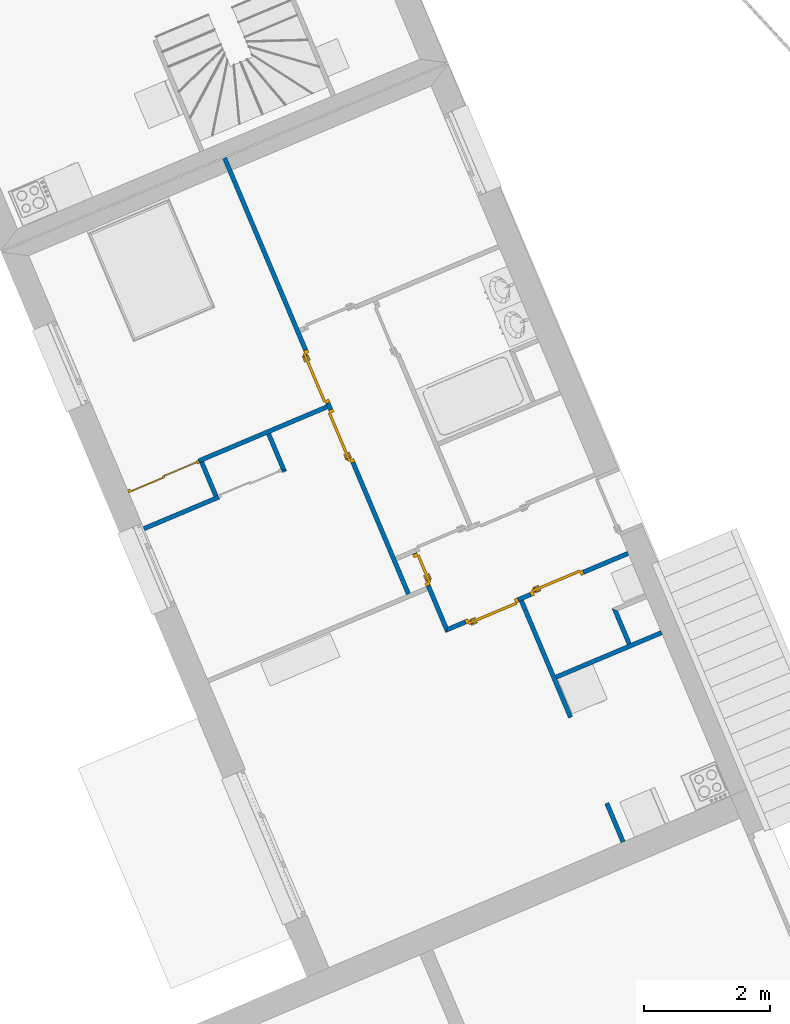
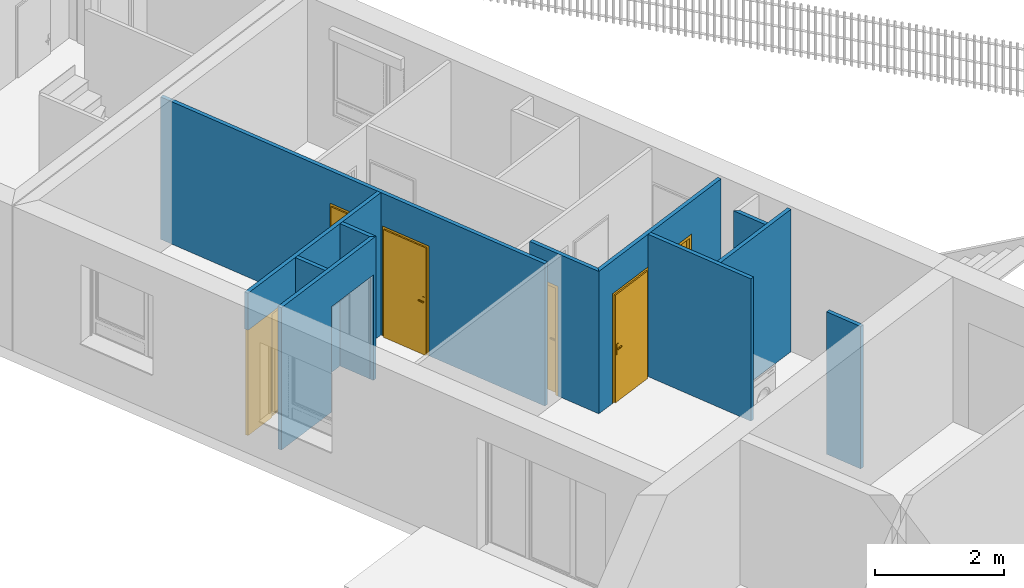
# One storey, part 52 of 195: 11 walls, 6 doors, 7 openings.
"""IFC2X3 building model written with IfcOpenShell, lengths in metres."""

from ifc_helpers import new_model, entity, si_unit, converted_unit, derived_unit, money_unit, direction, frame, origin_with_axes, origin_2d_with_axis, place, context, subcontext, project, spatial, polyline, rectangle, outline, extrude, open_shell, faceted_brep, surface_model, source, transform, mapped, material, layer, layer_set, layer_usage, type_object, element, fill, save


model = new_model("IFC2X3")

# Units and contexts
model_context = context("Model", 3, precision=1e-05, world=origin_with_axes(), true_north=direction((0.0, 1.0)))
body_context = subcontext(model_context, "Body", "Model", "MODEL_VIEW")
ifc_project = project(units=[si_unit("LENGTHUNIT", "METRE"), si_unit("AREAUNIT", "SQUARE_METRE"), si_unit("VOLUMEUNIT", "CUBIC_METRE"), converted_unit("PLANEANGLEUNIT", "DEGREE", entity("IfcPlaneAngleMeasure", 0.0174532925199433), si_unit("PLANEANGLEUNIT", "RADIAN"), dimensions=[0, 0, 0, 0, 0, 0, 0]), money_unit("CHF"), converted_unit("TIMEUNIT", "Year", entity("IfcTimeMeasure", 31557600.0), si_unit("TIMEUNIT", "SECOND"), dimensions=[0, 0, 1, 0, 0, 0, 0]), si_unit("MASSUNIT", "GRAM", prefix="KILO"), si_unit("THERMODYNAMICTEMPERATUREUNIT", "DEGREE_CELSIUS"), si_unit("LUMINOUSINTENSITYUNIT", "LUMEN"), si_unit("ENERGYUNIT", "JOULE", prefix="MEGA"), derived_unit("THERMALCONDUCTANCEUNIT", [(si_unit("POWERUNIT", "WATT"), 1), (si_unit("LENGTHUNIT", "METRE"), -1), (si_unit("THERMODYNAMICTEMPERATUREUNIT", "KELVIN"), -1)]), derived_unit("SPECIFICHEATCAPACITYUNIT", [(si_unit("ENERGYUNIT", "JOULE"), 1), (si_unit("MASSUNIT", "GRAM", prefix="KILO"), -1), (si_unit("THERMODYNAMICTEMPERATUREUNIT", "KELVIN"), -1)]), derived_unit("MASSDENSITYUNIT", [(si_unit("MASSUNIT", "GRAM", prefix="KILO"), 1), (si_unit("VOLUMEUNIT", "CUBIC_METRE"), -1)])], contexts=[model_context])

# Site, building, storey
site_placement = place(None, origin_with_axes())
site = spatial("IfcSite", under=ifc_project, at=site_placement, Name="Site", CompositionType="ELEMENT")
building_placement = place(site_placement, origin_with_axes())
building = spatial("IfcBuilding", under=site, at=building_placement, Name="Bâtiment", CompositionType="ELEMENT")
storey_placement = place(building_placement, origin_with_axes())
storey = spatial("IfcBuildingStorey", under=building, at=storey_placement, Name="rdc", CompositionType="ELEMENT", Elevation=0.0)

# Wall
ifc_material = material(Name="Hachure solide 268963992")
ifc_layer = layer(ifc_material, 0.07, ventilated="UNKNOWN")
ifc_layer_set = layer_set([ifc_layer], Name="Cloison 70 0826278243")
ifc_layer_usage_1 = layer_usage(ifc_layer_set, "AXIS2", "NEGATIVE", 0.0)
wall_type = type_object("IfcWallType", Name="Cloison 70 0826278243 70", PredefinedType="NOTDEFINED")
wall_1_placement = place(storey_placement, frame((9566.680143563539, -1049.272818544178, 57.7), z_axis=(0.0, 0.0, 1.0), x_axis=(-0.3885669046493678, 0.9214205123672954, 0.0)))
element("IfcWallStandardCase", 1, at=wall_1_placement, inside=storey, type_object=wall_type, material=ifc_layer_usage_1, Name="Mur-149", context=body_context, shape_type="SweptSolid", body=[
    extrude(outline(polyline([(0.0700000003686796, -0.07000000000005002), (0.6499928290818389, -0.06999999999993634), (0.6499928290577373, 0.0), (0.07000000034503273, 0.0), (0.0700000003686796, -0.07000000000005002)])), origin_with_axes(), (0.0, 0.0, 1.0), 2.7),
])

# Wall, opening, door
ifc_layer_usage_2 = layer_usage(ifc_layer_set, "AXIS2", "NEGATIVE", 0.0)
wall_2_placement = place(storey_placement, frame((9568.523512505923, -1047.790037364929, 57.7), z_axis=(0.0, 0.0, 1.0), x_axis=(-0.92142051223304, -0.3885669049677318, 0.0)))
wall_2 = element("IfcWallStandardCase", 2, at=wall_2_placement, inside=storey, type_object=wall_type, material=ifc_layer_usage_2, Name="Mur-149", context=body_context, shape_type="SweptSolid", body=[
    extrude(outline(polyline([(0.07000000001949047, -0.06999999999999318), (3.491145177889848, -0.06999999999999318), (3.491145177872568, 0.0), (0.06999999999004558, 0.0), (0.07000000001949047, -0.06999999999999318)])), origin_with_axes(), (0.0, 0.0, 1.0), 2.7),
])
opening_1_placement = place(wall_2_placement, frame((2.882911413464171, 0.0, 0.0), z_axis=(0.0, 0.0, 1.0), x_axis=(1.0, 0.0, 0.0)))
opening_1 = element("IfcOpeningElement", 3, at=opening_1_placement, cuts=wall_2, Name="Por-349", context=body_context, shape_type="SweptSolid", body=[
    extrude(rectangle(XDim=1.216467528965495, YDim=2.0, at=origin_2d_with_axis()), frame((0.0, 0.0, 1.0), z_axis=(0.0, -1.0, 0.0), x_axis=(1.0, 0.0, 0.0)), (0.0, 0.0, -1.0), 0.07),
    extrude(rectangle(XDim=1.216467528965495, YDim=2.0, at=origin_2d_with_axis()), frame((0.0, 0.0, 1.0), z_axis=(0.0, 1.0, 0.0), x_axis=(1.0, 0.0, 0.0)), (0.0, 0.0, -1.0), 0.07),
])
door_style_1 = type_object("IfcDoorStyle", ConstructionType="NOTDEFINED", OperationType="NOTDEFINED", ParameterTakesPrecedence=False, Sizeable=False)
shared_shape_1 = source(origin_with_axes(), body_context, "Body", "SurfaceModel", [
    faceted_brep([(0.6082337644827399, 0.0, 0.0), (0.5682337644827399, 0.0, 0.0), (0.5682337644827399, 0.0, 1.96), (-0.5682337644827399, 0.0, 1.96), (-0.5682337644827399, 0.0, 0.0), (-0.6082337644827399, 0.0, 0.0), (-0.6082337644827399, 0.0, 2.0), (0.6082337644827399, 0.0, 2.0), (0.6082337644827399, -0.05, 0.0), (0.5682337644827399, -0.05, 0.0), (0.5682337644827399, -0.04, 0.0), (0.5682337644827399, -0.04, 1.96), (-0.5682337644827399, -0.04, 1.96), (-0.5682337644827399, -0.04, 0.0), (-0.5682337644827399, -0.05, 0.0), (-0.6082337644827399, -0.05, 0.0), (-0.6082337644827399, -0.05, 2.0), (0.6082337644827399, -0.05, 2.0), (-0.5682337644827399, -0.05, 1.96), (0.5682337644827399, -0.05, 1.96)], [[[0, 1, 2, 3, 4, 5, 6, 7]], [[0, 8, 9, 10, 1]], [[1, 10, 11, 2]], [[2, 11, 12, 3]], [[3, 12, 13, 4]], [[5, 4, 13, 14, 15]], [[16, 6, 5, 15]], [[17, 7, 6, 16]], [[8, 0, 7, 17]], [[9, 8, 17, 16, 15, 14, 18, 19]], [[10, 9, 19, 11]], [[11, 19, 18, 12]], [[12, 18, 14, 13]]]),
    faceted_brep([(-0.5682337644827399, -0.02, 0.0), (0.01500000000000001, -0.02, 0.0), (0.01500000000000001, -0.04, 0.0), (-0.5682337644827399, -0.04, 0.0), (-0.5682337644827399, -0.02, 1.96), (0.01500000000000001, -0.02, 1.96), (-0.5382337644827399, -0.02, 0.03), (-0.01500000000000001, -0.02, 0.03), (-0.01500000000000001, -0.02, 1.93), (-0.5382337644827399, -0.02, 1.93), (0.01500000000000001, -0.04, 1.96), (-0.5682337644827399, -0.04, 1.96), (-0.5382337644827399, -0.04, 0.03), (-0.5382337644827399, -0.04, 1.93), (-0.01500000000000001, -0.04, 1.93), (-0.01500000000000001, -0.04, 0.03)], [[[0, 1, 2, 3]], [[0, 4, 5, 1], [6, 7, 8, 9]], [[1, 5, 10, 2]], [[3, 2, 10, 11], [12, 13, 14, 15]], [[4, 0, 3, 11]], [[5, 4, 11, 10]], [[7, 6, 12, 15]], [[8, 7, 15, 14]], [[9, 8, 14, 13]], [[6, 9, 13, 12]]]),
    surface_model("IfcShellBasedSurfaceModel", [(-0.5382337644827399, -0.03, 0.03), (-0.01500000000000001, -0.03, 0.03), (-0.01500000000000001, -0.03, 1.93), (-0.5382337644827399, -0.03, 1.93)], [open_shell([[[0, 1, 2, 3]]])]),
    faceted_brep([(-0.01500000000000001, 0.0, 0.0), (0.5682337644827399, 0.0, 0.0), (0.5682337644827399, -0.02, 0.0), (-0.01500000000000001, -0.02, 0.0), (-0.01500000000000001, 0.0, 1.96), (0.5682337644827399, 0.0, 1.96), (0.5682337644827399, -0.02, 1.96), (-0.01500000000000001, -0.02, 1.96)], [[[0, 1, 2, 3]], [[0, 4, 5, 1]], [[1, 5, 6, 2]], [[3, 2, 6, 7]], [[4, 0, 3, 7]], [[5, 4, 7, 6]]]),
])
door_1_placement = place(opening_1_placement, frame((-0.6082337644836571, 0.0, 0.0), z_axis=(0.0, 0.0, 1.0), x_axis=(1.0, 0.0, 0.0)))
door_1 = element("IfcDoor", 4, at=door_1_placement, inside=storey, type_object=door_style_1, Name="Por-349", OverallHeight=2.0, OverallWidth=1.21647, context=body_context, shape_type="MappedRepresentation", body=[
    mapped(shared_shape_1, transform((0.6082337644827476, 0.0, 0.0))),
])
fill(opening_1, door_1)

# Wall, openings, doors
ifc_layer_usage_3 = layer_usage(ifc_layer_set, "AXIS2", "NEGATIVE", 0.0)
wall_3_placement = place(storey_placement, frame((9566.854954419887, -1043.833334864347, 57.7), z_axis=(0.0, 0.0, 1.0), x_axis=(0.3885669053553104, -0.9214205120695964, 0.0)))
wall_3 = element("IfcWallStandardCase", 5, at=wall_3_placement, inside=storey, type_object=wall_type, material=ifc_layer_usage_3, Name="Mur-149", context=body_context, shape_type="SweptSolid", body=[
    extrude(outline(polyline([(0.0, -0.06999999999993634), (7.488450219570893, -0.06999999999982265), (7.488450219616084, 0.0), (0.0, 0.0), (0.0, -0.06999999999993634)])), origin_with_axes(), (0.0, 0.0, 1.0), 2.7),
])
opening_2_placement = place(wall_3_placement, frame((3.753835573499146, 0.0, 0.0), z_axis=(0.0, 0.0, 1.0), x_axis=(1.0, 0.0, 0.0)))
opening_2 = element("IfcOpeningElement", 6, at=opening_2_placement, cuts=wall_3, Name="Por-301", context=body_context, shape_type="SweptSolid", body=[
    extrude(rectangle(XDim=0.9099999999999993, YDim=2.079999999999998, at=origin_2d_with_axis()), frame((0.0, 0.06999999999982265, 1.039999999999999), z_axis=(0.0, 1.0, 0.0), x_axis=(1.0, 0.0, 0.0)), (0.0, 0.0, -1.0), 0.14),
])
opening_3_placement = place(wall_3_placement, frame((4.775037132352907, 0.0, 0.0), z_axis=(0.0, 0.0, 1.0), x_axis=(1.0, 0.0, 0.0)))
opening_3 = element("IfcOpeningElement", 7, at=opening_3_placement, cuts=wall_3, Name="Por-302", context=body_context, shape_type="SweptSolid", body=[
    extrude(rectangle(XDim=0.9099999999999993, YDim=2.079999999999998, at=origin_2d_with_axis()), frame((0.0, 0.06999999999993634, 1.039999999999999), z_axis=(0.0, -1.0, 0.0), x_axis=(-1.0, 0.0, 0.0)), (0.0, 0.0, 1.0), 0.14),
])
door_style_2 = type_object("IfcDoorStyle", Name="Porte_1v", ConstructionType="NOTDEFINED", OperationType="NOTDEFINED", ParameterTakesPrecedence=False, Sizeable=False)
shared_shape_2 = source(origin_with_axes(), body_context, "Body", "Brep", [
    faceted_brep([(0.455, 0.0, 0.0), (0.415, 0.0, 0.0), (0.415, 0.0, 2.04), (-0.415, 0.0, 2.04), (-0.415, 0.0, 0.0), (-0.455, 0.0, 0.0), (-0.455, 0.0, 2.08), (0.455, 0.0, 2.08), (0.455, -0.07, 0.0), (0.4, -0.07, 0.0), (0.4, -0.015, 0.0), (0.415, -0.015, 0.0), (0.415, -0.015, 2.04), (-0.415, -0.015, 2.04), (-0.415, -0.015, 0.0), (-0.4, -0.015, 0.0), (-0.4, -0.07, 0.0), (-0.455, -0.07, 0.0), (-0.455, -0.07, 2.08), (0.455, -0.07, 2.08), (-0.4, -0.07, 2.025), (0.4, -0.07, 2.025), (0.4, -0.015, 2.025), (-0.4, -0.015, 2.025)], [[[0, 1, 2, 3, 4, 5, 6, 7]], [[0, 8, 9, 10, 11, 1]], [[1, 11, 12, 2]], [[2, 12, 13, 3]], [[3, 13, 14, 4]], [[5, 4, 14, 15, 16, 17]], [[18, 6, 5, 17]], [[19, 7, 6, 18]], [[8, 0, 7, 19]], [[9, 8, 19, 18, 17, 16, 20, 21]], [[10, 9, 21, 22]], [[11, 10, 22, 23, 15, 14, 13, 12]], [[23, 20, 16, 15]], [[22, 21, 20, 23]]]),
    faceted_brep([(-0.35, -0.015, 0.9), (-0.39, -0.015, 0.9), (-0.39, -0.015, 1.1), (-0.35, -0.015, 1.1), (-0.35, -0.025, 0.9), (-0.39, -0.025, 0.9), (-0.39, -0.025, 1.1), (-0.35, -0.025, 1.1)], [[[0, 1, 2, 3]], [[1, 0, 4, 5]], [[2, 1, 5, 6]], [[3, 2, 6, 7]], [[0, 3, 7, 4]], [[5, 4, 7, 6]]]),
    faceted_brep([(-0.28, -0.025, 1.0), (-0.38, -0.025, 1.0), (-0.38, -0.025, 1.02), (-0.28, -0.025, 1.02), (-0.28, -0.045, 1.0), (-0.38, -0.045, 1.0), (-0.38, -0.045, 1.02), (-0.28, -0.045, 1.02)], [[[0, 1, 2, 3]], [[1, 0, 4, 5]], [[2, 1, 5, 6]], [[3, 2, 6, 7]], [[0, 3, 7, 4]], [[5, 4, 7, 6]]]),
    faceted_brep([(-0.35, 0.035, 0.9), (-0.39, 0.035, 0.9), (-0.39, 0.035, 1.1), (-0.35, 0.035, 1.1), (-0.35, 0.025, 0.9), (-0.39, 0.025, 0.9), (-0.39, 0.025, 1.1), (-0.35, 0.025, 1.1)], [[[0, 1, 2, 3]], [[1, 0, 4, 5]], [[2, 1, 5, 6]], [[3, 2, 6, 7]], [[0, 3, 7, 4]], [[5, 4, 7, 6]]]),
    faceted_brep([(-0.28, 0.05500000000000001, 1.0), (-0.38, 0.05500000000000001, 1.0), (-0.38, 0.05500000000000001, 1.02), (-0.28, 0.05500000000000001, 1.02), (-0.28, 0.035, 1.0), (-0.38, 0.035, 1.0), (-0.38, 0.035, 1.02), (-0.28, 0.035, 1.02)], [[[0, 1, 2, 3]], [[1, 0, 4, 5]], [[2, 1, 5, 6]], [[3, 2, 6, 7]], [[0, 3, 7, 4]], [[5, 4, 7, 6]]]),
    faceted_brep([(-0.415, 0.025, 0.0), (0.415, 0.025, 0.0), (0.415, -0.015, 0.0), (-0.415, -0.015, 0.0), (-0.415, 0.025, 2.04), (0.415, 0.025, 2.04), (0.415, -0.015, 2.04), (-0.415, -0.015, 2.04)], [[[0, 1, 2, 3]], [[0, 4, 5, 1]], [[1, 5, 6, 2]], [[3, 2, 6, 7]], [[4, 0, 3, 7]], [[5, 4, 7, 6]]]),
])
door_2_placement = place(opening_3_placement, frame((0.4150000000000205, 0.0, 0.0), z_axis=(0.0, 0.0, 1.0), x_axis=(-1.0, 0.0, 0.0)))
door_2 = element("IfcDoor", 8, at=door_2_placement, inside=storey, type_object=door_style_2, Name="Por-302", OverallHeight=2.04, OverallWidth=0.83, context=body_context, shape_type="MappedRepresentation", body=[
    mapped(shared_shape_2, transform((0.4149999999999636, 0.07000000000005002, 0.0))),
])
fill(opening_3, door_2)
shared_shape_3 = source(origin_with_axes(), body_context, "Body", "Brep", [
    faceted_brep([(-0.455, 0.0, 0.0), (-0.455, 0.0, 2.08), (0.455, 0.0, 2.08), (0.455, 0.0, 0.0), (0.415, 0.0, 0.0), (0.415, 0.0, 2.04), (-0.415, 0.0, 2.04), (-0.415, 0.0, 0.0), (-0.455, -0.07, 0.0), (-0.455, -0.07, 2.08), (0.455, -0.07, 2.08), (0.455, -0.07, 0.0), (0.4, -0.07, 0.0), (0.4, -0.015, 0.0), (0.415, -0.015, 0.0), (0.415, -0.015, 2.04), (-0.415, -0.015, 2.04), (-0.415, -0.015, 0.0), (-0.4, -0.015, 0.0), (-0.4, -0.07, 0.0), (-0.4, -0.07, 2.025), (0.4, -0.07, 2.025), (0.4, -0.015, 2.025), (-0.4, -0.015, 2.025)], [[[0, 1, 2, 3, 4, 5, 6, 7]], [[8, 9, 1, 0]], [[9, 10, 2, 1]], [[10, 11, 3, 2]], [[3, 11, 12, 13, 14, 4]], [[5, 4, 14, 15]], [[6, 5, 15, 16]], [[7, 6, 16, 17]], [[0, 7, 17, 18, 19, 8]], [[19, 20, 21, 12, 11, 10, 9, 8]], [[22, 13, 12, 21]], [[17, 16, 15, 14, 13, 22, 23, 18]], [[18, 23, 20, 19]], [[23, 22, 21, 20]]]),
    faceted_brep([(0.35, -0.015, 0.9), (0.35, -0.015, 1.1), (0.39, -0.015, 1.1), (0.39, -0.015, 0.9), (0.35, -0.025, 0.9), (0.35, -0.025, 1.1), (0.39, -0.025, 1.1), (0.39, -0.025, 0.9)], [[[0, 1, 2, 3]], [[0, 4, 5, 1]], [[1, 5, 6, 2]], [[2, 6, 7, 3]], [[3, 7, 4, 0]], [[7, 6, 5, 4]]]),
    faceted_brep([(0.28, -0.025, 1.0), (0.28, -0.025, 1.02), (0.38, -0.025, 1.02), (0.38, -0.025, 1.0), (0.28, -0.045, 1.0), (0.28, -0.045, 1.02), (0.38, -0.045, 1.02), (0.38, -0.045, 1.0)], [[[0, 1, 2, 3]], [[0, 4, 5, 1]], [[1, 5, 6, 2]], [[2, 6, 7, 3]], [[3, 7, 4, 0]], [[7, 6, 5, 4]]]),
    faceted_brep([(0.35, 0.035, 0.9), (0.35, 0.035, 1.1), (0.39, 0.035, 1.1), (0.39, 0.035, 0.9), (0.35, 0.025, 0.9), (0.35, 0.025, 1.1), (0.39, 0.025, 1.1), (0.39, 0.025, 0.9)], [[[0, 1, 2, 3]], [[0, 4, 5, 1]], [[1, 5, 6, 2]], [[2, 6, 7, 3]], [[3, 7, 4, 0]], [[7, 6, 5, 4]]]),
    faceted_brep([(0.28, 0.05500000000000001, 1.0), (0.28, 0.05500000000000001, 1.02), (0.38, 0.05500000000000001, 1.02), (0.38, 0.05500000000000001, 1.0), (0.28, 0.035, 1.0), (0.28, 0.035, 1.02), (0.38, 0.035, 1.02), (0.38, 0.035, 1.0)], [[[0, 1, 2, 3]], [[0, 4, 5, 1]], [[1, 5, 6, 2]], [[2, 6, 7, 3]], [[3, 7, 4, 0]], [[7, 6, 5, 4]]]),
    faceted_brep([(0.415, 0.025, 0.0), (0.415, -0.015, 0.0), (-0.415, -0.015, 0.0), (-0.415, 0.025, 0.0), (0.415, 0.025, 2.04), (0.415, -0.015, 2.04), (-0.415, -0.015, 2.04), (-0.415, 0.025, 2.04)], [[[0, 1, 2, 3]], [[4, 5, 1, 0]], [[1, 5, 6, 2]], [[3, 2, 6, 7]], [[0, 3, 7, 4]], [[7, 6, 5, 4]]]),
])
door_3_placement = place(opening_2_placement, frame((0.4149999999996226, 0.0, 0.0), z_axis=(0.0, 0.0, 1.0), x_axis=(-1.0, 0.0, 0.0)))
door_3 = element("IfcDoor", 9, at=door_3_placement, inside=storey, type_object=door_style_2, Name="Por-301", OverallHeight=2.04, OverallWidth=0.83, context=body_context, shape_type="MappedRepresentation", body=[
    mapped(shared_shape_3, transform((0.4149999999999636, 0.07000000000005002, 0.0))),
])
fill(opening_2, door_3)

# Wall
ifc_layer_usage_4 = layer_usage(ifc_layer_set, "AXIS2", "NEGATIVE", 0.0)
wall_4_placement = place(storey_placement, frame((9567.740119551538, -1048.825822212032, 57.7), z_axis=(0.0, 0.0, 1.0), x_axis=(-0.3885669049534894, 0.9214205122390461, 0.0)))
element("IfcWallStandardCase", 10, at=wall_4_placement, inside=storey, type_object=wall_type, material=ifc_layer_usage_4, Name="Mur-149", context=body_context, shape_type="SweptSolid", body=[
    extrude(outline(polyline([(0.0, -0.07000000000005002), (0.6499928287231, -0.07000000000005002), (0.64999282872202, 0.0), (0.07000000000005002, 0.0), (0.0, -0.07000000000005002)])), origin_with_axes(), (0.0, 0.0, 1.0), 2.7),
])

# Wall, opening
ifc_layer_usage_5 = layer_usage(ifc_layer_set, "AXIS2", "NEGATIVE", 0.0)
wall_5_placement = place(storey_placement, frame((9567.740119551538, -1048.825822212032, 57.7), z_axis=(0.0, 0.0, 1.0), x_axis=(-0.921420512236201, -0.3885669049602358, 0.0)))
wall_5 = element("IfcWallStandardCase", 11, at=wall_5_placement, inside=storey, type_object=wall_type, material=ifc_layer_usage_5, Name="Mur-149", context=body_context, shape_type="SweptSolid", body=[
    extrude(outline(polyline([(0.0, -0.06999999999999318), (2.366839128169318, -0.06999999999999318), (2.366839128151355, 0.0), (-0.07000000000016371, 0.0), (0.0, -0.06999999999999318)])), origin_with_axes(), (0.0, 0.0, 1.0), 2.7),
])
opening_4_placement = place(wall_5_placement, frame((0.5401857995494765, 0.0, 0.0), z_axis=(0.0, 0.0, 1.0), x_axis=(1.0, 0.0, 0.0)))
element("IfcOpeningElement", 12, at=opening_4_placement, cuts=wall_5, Name="Por-348", context=body_context, shape_type="SweptSolid", body=[
    extrude(rectangle(XDim=1.080371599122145, YDim=2.0, at=origin_2d_with_axis()), frame((0.0, -0.06999999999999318, 1.0), z_axis=(0.0, 1.0, 0.0), x_axis=(1.0, 0.0, 0.0)), (0.0, 0.0, -1.0), 0.07),
    extrude(rectangle(XDim=1.080371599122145, YDim=2.0, at=origin_2d_with_axis()), frame((0.0, -0.06999999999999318, 1.0), z_axis=(0.0, -1.0, 0.0), x_axis=(1.0, 0.0, 0.0)), (0.0, 0.0, -1.0), 0.07),
])

# Walls
ifc_layer_usage_6 = layer_usage(ifc_layer_set, "AXIS2", "NEGATIVE", 0.0)
wall_6_placement = place(storey_placement, frame((9572.903494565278, -1054.044040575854, 57.7), z_axis=(0.0, 0.0, 1.0), x_axis=(0.3885669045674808, -0.9214205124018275, 0.0)))
element("IfcWallStandardCase", 13, at=wall_6_placement, inside=storey, type_object=wall_type, material=ifc_layer_usage_6, Name="Mur-149", context=body_context, shape_type="SweptSolid", body=[
    extrude(outline(polyline([(0.0, -0.07000000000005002), (0.6668305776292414, -0.07000000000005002), (0.6665136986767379, 0.0), (0.0, 0.0), (0.0, -0.07000000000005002)])), origin_with_axes(), (0.0, 0.0, 1.0), 2.7),
])
ifc_layer_usage_7 = layer_usage(ifc_layer_set, "AXIS2", "NEGATIVE", 0.0)
wall_7_placement = place(storey_placement, frame((9573.194669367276, -1051.550557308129, 57.7), z_axis=(0.0, 0.0, 1.0), x_axis=(-0.3885669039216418, 0.9214205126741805, 0.0)))
element("IfcWallStandardCase", 14, at=wall_7_placement, inside=storey, type_object=wall_type, material=ifc_layer_usage_7, Name="Mur-149", context=body_context, shape_type="SweptSolid", body=[
    extrude(outline(polyline([(0.0, -0.07000000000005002), (0.5522261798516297, -0.07000000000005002), (0.6222241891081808, 0.0), (0.0, 0.0), (0.0, -0.07000000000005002)])), origin_with_axes(), (0.0, 0.0, 1.0), 2.7),
])
ifc_layer_usage_8 = layer_usage(ifc_layer_set, "AXIS2", "NEGATIVE", 0.0)
wall_8_placement = place(storey_placement, frame((9571.55261250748, -1050.840652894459, 57.7), z_axis=(0.0, 0.0, 1.0), x_axis=(0.3885669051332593, -0.9214205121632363, 0.0)))
element("IfcWallStandardCase", 15, at=wall_8_placement, inside=storey, type_object=wall_type, material=ifc_layer_usage_8, Name="Mur-149", context=body_context, shape_type="SweptSolid", body=[
    extrude(outline(polyline([(-7.009361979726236e-10, -0.07000000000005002), (2.00396996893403, -0.07000000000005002), (2.00396996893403, 0.0), (-6.78028300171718e-10, 0.0), (-7.009361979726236e-10, -0.07000000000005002)])), origin_with_axes(), (0.0, 0.0, 1.0), 2.7),
])

# Wall, openings, doors
ifc_layer_usage_9 = layer_usage(ifc_layer_set, "AXIS2", "POSITIVE", 0.0)
wall_9_placement = place(storey_placement, frame((9570.321865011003, -1051.35966428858, 57.7), z_axis=(0.0, 0.0, 1.0), x_axis=(0.9214205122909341, 0.3885669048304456, 0.0)))
wall_9 = element("IfcWallStandardCase", 16, at=wall_9_placement, inside=storey, type_object=wall_type, material=ifc_layer_usage_9, Name="Mur-149", context=body_context, shape_type="SweptSolid", body=[
    extrude(outline(polyline([(2.144133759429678e-10, 0.0), (3.148769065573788, 0.0), (3.148769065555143, 0.07000000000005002), (0.070000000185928, 0.06999999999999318), (2.144133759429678e-10, 0.0)])), origin_with_axes(), (0.0, 0.0, 1.0), 2.7),
])
opening_5_placement = place(wall_9_placement, frame((0.8050034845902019, 0.0, 0.0), z_axis=(0.0, 0.0, 1.0), x_axis=(1.0, 0.0, 0.0)))
opening_5 = element("IfcOpeningElement", 17, at=opening_5_placement, cuts=wall_9, Name="Por-299", context=body_context, shape_type="SweptSolid", body=[
    extrude(rectangle(XDim=0.9099999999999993, YDim=2.079999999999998, at=origin_2d_with_axis()), frame((0.0, 0.06999999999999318, 1.039999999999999), z_axis=(0.0, 1.0, 0.0), x_axis=(1.0, 0.0, 0.0)), (0.0, 0.0, -1.0), 0.14),
])
opening_6_placement = place(wall_9_placement, frame((1.926126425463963, 0.0, 0.0), z_axis=(0.0, 0.0, 1.0), x_axis=(1.0, 0.0, 0.0)))
opening_6 = element("IfcOpeningElement", 18, at=opening_6_placement, cuts=wall_9, Name="Por-299", context=body_context, shape_type="SweptSolid", body=[
    extrude(rectangle(XDim=0.9099999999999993, YDim=2.079999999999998, at=origin_2d_with_axis()), frame((0.0, -0.06999999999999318, 1.039999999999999), z_axis=(0.0, 1.0, 0.0), x_axis=(1.0, 0.0, 0.0)), (0.0, 0.0, 1.0), 0.14),
])
door_4_placement = place(opening_6_placement, frame((-0.415000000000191, 0.0, 0.0), z_axis=(0.0, 0.0, 1.0), x_axis=(1.0, 0.0, 0.0)))
door_4 = element("IfcDoor", 19, at=door_4_placement, inside=storey, type_object=door_style_2, Name="Por-299", OverallHeight=2.04, OverallWidth=0.83, context=body_context, shape_type="MappedRepresentation", body=[
    mapped(shared_shape_2, transform((0.4150000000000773, 0.07000000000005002, 0.0))),
])
fill(opening_6, door_4)
door_5_placement = place(opening_5_placement, frame((0.4150000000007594, 0.0, 0.0), z_axis=(0.0, 0.0, 1.0), x_axis=(-1.0, 0.0, 0.0)))
door_5 = element("IfcDoor", 20, at=door_5_placement, inside=storey, type_object=door_style_2, Name="Por-299", OverallHeight=2.04, OverallWidth=0.83, context=body_context, shape_type="MappedRepresentation", body=[
    mapped(shared_shape_3, transform((0.4149999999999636, 0.0, 0.0))),
])
fill(opening_5, door_5)

# Wall, opening, door
ifc_layer_usage_10 = layer_usage(ifc_layer_set, "AXIS2", "NEGATIVE", 0.0)
wall_10_placement = place(storey_placement, frame((9570.321865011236, -1051.35966428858, 57.7), z_axis=(0.0, 0.0, 1.0), x_axis=(-0.3885669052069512, 0.9214205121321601, 0.0)))
wall_10 = element("IfcWallStandardCase", 21, at=wall_10_placement, inside=storey, type_object=wall_type, material=ifc_layer_usage_10, Name="Mur-149", context=body_context, shape_type="SweptSolid", body=[
    extrude(outline(polyline([(0.07000000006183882, -0.06999999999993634), (1.34850118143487, -0.06999999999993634), (1.348501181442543, 0.0), (0.0, 0.0), (0.07000000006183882, -0.06999999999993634)])), origin_with_axes(), (0.0, 0.0, 1.0), 2.7),
])
opening_7_placement = place(wall_10_placement, frame((1.067283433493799, 0.0, 0.0), z_axis=(0.0, 0.0, 1.0), x_axis=(1.0, 0.0, 0.0)))
opening_7 = element("IfcOpeningElement", 22, at=opening_7_placement, cuts=wall_10, Name="Por-320", context=body_context, shape_type="SweptSolid", body=[
    extrude(rectangle(XDim=0.547405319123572, YDim=2.079999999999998, at=origin_2d_with_axis()), frame((-2.722629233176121e-09, 0.06999999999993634, 1.039999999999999), z_axis=(0.0, 1.0, 0.0), x_axis=(1.0, 0.0, 0.0)), (0.0, 0.0, -1.0), 0.14),
])
shared_shape_4 = source(origin_with_axes(), body_context, "Body", "Brep", [
    faceted_brep([(-0.2737026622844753, 0.0, 0.0), (-0.2737026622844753, 0.0, 2.08), (0.2737026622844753, 0.0, 2.08), (0.2737026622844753, 0.0, 0.0), (0.2337026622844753, 0.0, 0.0), (0.2337026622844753, 0.0, 2.04), (-0.2337026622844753, 0.0, 2.04), (-0.2337026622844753, 0.0, 0.0), (-0.2737026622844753, -0.07, 0.0), (-0.2737026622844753, -0.07, 2.08), (0.2737026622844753, -0.07, 2.08), (0.2737026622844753, -0.07, 0.0), (0.2187026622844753, -0.07, 0.0), (0.2187026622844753, -0.015, 0.0), (0.2337026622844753, -0.015, 0.0), (0.2337026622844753, -0.015, 2.04), (-0.2337026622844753, -0.015, 2.04), (-0.2337026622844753, -0.015, 0.0), (-0.2187026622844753, -0.015, 0.0), (-0.2187026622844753, -0.07, 0.0), (-0.2187026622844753, -0.07, 2.025), (0.2187026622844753, -0.07, 2.025), (0.2187026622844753, -0.015, 2.025), (-0.2187026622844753, -0.015, 2.025)], [[[0, 1, 2, 3, 4, 5, 6, 7]], [[8, 9, 1, 0]], [[9, 10, 2, 1]], [[10, 11, 3, 2]], [[3, 11, 12, 13, 14, 4]], [[5, 4, 14, 15]], [[6, 5, 15, 16]], [[7, 6, 16, 17]], [[0, 7, 17, 18, 19, 8]], [[19, 20, 21, 12, 11, 10, 9, 8]], [[22, 13, 12, 21]], [[17, 16, 15, 14, 13, 22, 23, 18]], [[18, 23, 20, 19]], [[23, 22, 21, 20]]]),
    faceted_brep([(0.1687026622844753, -0.015, 0.9), (0.1687026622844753, -0.015, 1.1), (0.2087026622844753, -0.015, 1.1), (0.2087026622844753, -0.015, 0.9), (0.1687026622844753, -0.025, 0.9), (0.1687026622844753, -0.025, 1.1), (0.2087026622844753, -0.025, 1.1), (0.2087026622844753, -0.025, 0.9)], [[[0, 1, 2, 3]], [[0, 4, 5, 1]], [[1, 5, 6, 2]], [[2, 6, 7, 3]], [[3, 7, 4, 0]], [[7, 6, 5, 4]]]),
    faceted_brep([(0.0987026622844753, -0.025, 1.0), (0.0987026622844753, -0.025, 1.02), (0.1987026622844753, -0.025, 1.02), (0.1987026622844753, -0.025, 1.0), (0.0987026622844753, -0.045, 1.0), (0.0987026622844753, -0.045, 1.02), (0.1987026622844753, -0.045, 1.02), (0.1987026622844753, -0.045, 1.0)], [[[0, 1, 2, 3]], [[0, 4, 5, 1]], [[1, 5, 6, 2]], [[2, 6, 7, 3]], [[3, 7, 4, 0]], [[7, 6, 5, 4]]]),
    faceted_brep([(0.1687026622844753, 0.035, 0.9), (0.1687026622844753, 0.035, 1.1), (0.2087026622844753, 0.035, 1.1), (0.2087026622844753, 0.035, 0.9), (0.1687026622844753, 0.025, 0.9), (0.1687026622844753, 0.025, 1.1), (0.2087026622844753, 0.025, 1.1), (0.2087026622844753, 0.025, 0.9)], [[[0, 1, 2, 3]], [[0, 4, 5, 1]], [[1, 5, 6, 2]], [[2, 6, 7, 3]], [[3, 7, 4, 0]], [[7, 6, 5, 4]]]),
    faceted_brep([(0.0987026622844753, 0.05500000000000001, 1.0), (0.0987026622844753, 0.05500000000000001, 1.02), (0.1987026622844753, 0.05500000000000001, 1.02), (0.1987026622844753, 0.05500000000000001, 1.0), (0.0987026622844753, 0.035, 1.0), (0.0987026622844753, 0.035, 1.02), (0.1987026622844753, 0.035, 1.02), (0.1987026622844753, 0.035, 1.0)], [[[0, 1, 2, 3]], [[0, 4, 5, 1]], [[1, 5, 6, 2]], [[2, 6, 7, 3]], [[3, 7, 4, 0]], [[7, 6, 5, 4]]]),
    faceted_brep([(0.2337026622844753, 0.025, 0.0), (0.2337026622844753, -0.015, 0.0), (-0.2337026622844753, -0.015, 0.0), (-0.2337026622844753, 0.025, 0.0), (0.2337026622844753, 0.025, 2.04), (0.2337026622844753, -0.015, 2.04), (-0.2337026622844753, -0.015, 2.04), (-0.2337026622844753, 0.025, 2.04)], [[[0, 1, 2, 3]], [[4, 5, 1, 0]], [[1, 5, 6, 2]], [[3, 2, 6, 7]], [[0, 3, 7, 4]], [[7, 6, 5, 4]]]),
])
door_6_placement = place(opening_7_placement, frame((0.2337026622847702, 0.0, 0.0), z_axis=(0.0, 0.0, 1.0), x_axis=(-1.0, 0.0, 0.0)))
door_6 = element("IfcDoor", 23, at=door_6_placement, inside=storey, type_object=door_style_2, Name="Por-320", OverallHeight=2.04, OverallWidth=0.467405, context=body_context, shape_type="MappedRepresentation", body=[
    mapped(shared_shape_4, transform((0.233702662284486, 0.07000000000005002, 0.0))),
])
fill(opening_7, door_6)

# Wall
ifc_layer_usage_11 = layer_usage(ifc_layer_set, "AXIS2", "POSITIVE", 0.0)
wall_11_placement = place(storey_placement, frame((9572.081906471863, -1052.095783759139, 57.7), z_axis=(0.0, 0.0, 1.0), x_axis=(0.9214205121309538, 0.3885669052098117, 0.0)))
element("IfcWallStandardCase", 24, at=wall_11_placement, inside=storey, type_object=wall_type, material=ifc_layer_usage_11, Name="Mur-149", context=body_context, shape_type="SweptSolid", body=[
    extrude(outline(polyline([(-1.217586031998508e-10, 0.0), (1.813062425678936, 0.0), (1.813062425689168, 0.06999999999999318), (-1.159605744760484e-10, 0.06999999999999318), (-1.217586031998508e-10, 0.0)])), origin_with_axes(), (0.0, 0.0, 1.0), 2.7),
])

save(model, "model.ifc")
